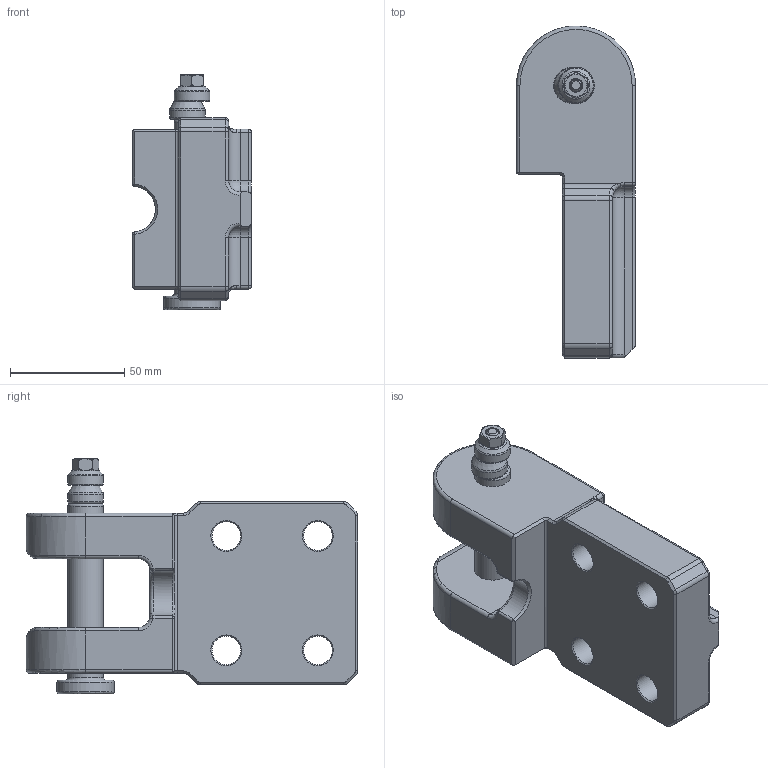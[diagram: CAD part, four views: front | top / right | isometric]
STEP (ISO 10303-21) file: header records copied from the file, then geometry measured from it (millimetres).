
FILE_DESCRIPTION(/* description */ (''),/* implementation_level */ '2;1');
FILE_NAME(/* name */ '2133.12.016.stp',/* time_stamp */ '2023-09-04T18:08:33+08:00',/* author */ (''),/* organization */ (''),/* preprocessor_version */ 'ST-DEVELOPER v16',/* originating_system */ 'SIEMENS PLM Software NX 10.0',/* authorisation */ '');
FILE_SCHEMA (('CONFIG_CONTROL_DESIGN'));
Products named in the file (1): 2133.12.016.prt_model
Bounding box: 52 x 145 x 103 mm (x, y, z)
Volume: 294319.6 mm3; surface area: 50561.4 mm2
Topology: 5 solids, 5 shells, 865 faces, 4485 edges, 3688 vertices
Faces by surface type: bspline 373, plane 325, cylinder 99, torus 32, cone 32, sphere 4
Full cylindrical faces by diameter (mm): 6.1 x1, 10 x1, 12.5 x4, 15.6 x3, 16 x2, 25 x1
Entity records: 55221 total; most frequent: CARTESIAN_POINT 29896, ORIENTED_EDGE 8864, EDGE_CURVE 4432, VERTEX_POINT 3688, B_SPLINE_CURVE_WITH_KNOTS 3448, EDGE_LOOP 988, DIRECTION 980, ADVANCED_FACE 862
